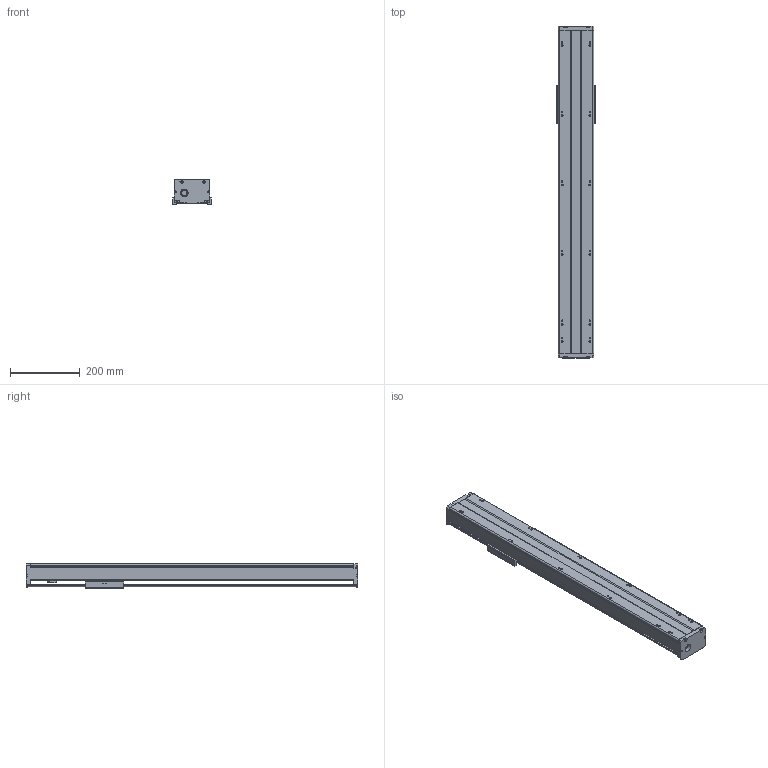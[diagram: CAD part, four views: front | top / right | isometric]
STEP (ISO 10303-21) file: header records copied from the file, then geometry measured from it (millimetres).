
FILE_DESCRIPTION(/* description */ (''),/* implementation_level */ '2;1');
FILE_NAME(/* name */ 'TKA100-700A1F0_asm1.stp',/* time_stamp */ '2017-02-20T16:21:46+08:00',/* author */ (''),/* organization */ (''),/* preprocessor_version */ 'ST-DEVELOPER v15',/* originating_system */ 'SIEMENS PLM Software NX 8.5',/* authorisation */ '');
FILE_SCHEMA (('AUTOMOTIVE_DESIGN { 1 0 10303 214 3 1 1 1 }'));
Length unit declared in the file: millimetre
Products named in the file (3): 200-02; 200-01; TKA100-700A1F0_asm1_stp
Assembly tree (2 placements, depth 2):
  TKA100-700A1F0_asm1_stp
    200-01
    200-02
Bounding box: 110 x 954 x 71 mm (x, y, z)
Volume: 2011404.1 mm3; surface area: 665423.8 mm2
Topology: 2 solids, 8 shells, 695 faces, 1850 edges, 1209 vertices
Faces by surface type: cylinder 273, plane 259, cone 110, torus 27, bspline 26
Full cylindrical faces by diameter (mm): 2.5 x6, 2.6 x8, 3.3 x8, 3.4 x8, 3.8 x4, 4.2 x21, 4.3 x4, 4.5 x4, 5 x1, 5.5 x20, 6.6 x4, 8 x5, 9 x4, 10 x12, 11 x4, 12 x6, 12.05 x2, 15.3 x1, 15.4 x1, 16 x1, 17 x2, 18 x1, 22 x1, 24 x1, 28 x5, 30 x1
Entity records: 26048 total; most frequent: CARTESIAN_POINT 9856, DIRECTION 3307, ORIENTED_EDGE 3080, EDGE_CURVE 1540, AXIS2_PLACEMENT_3D 1327, VERTEX_POINT 1133, EDGE_LOOP 1018, ADVANCED_FACE 695
